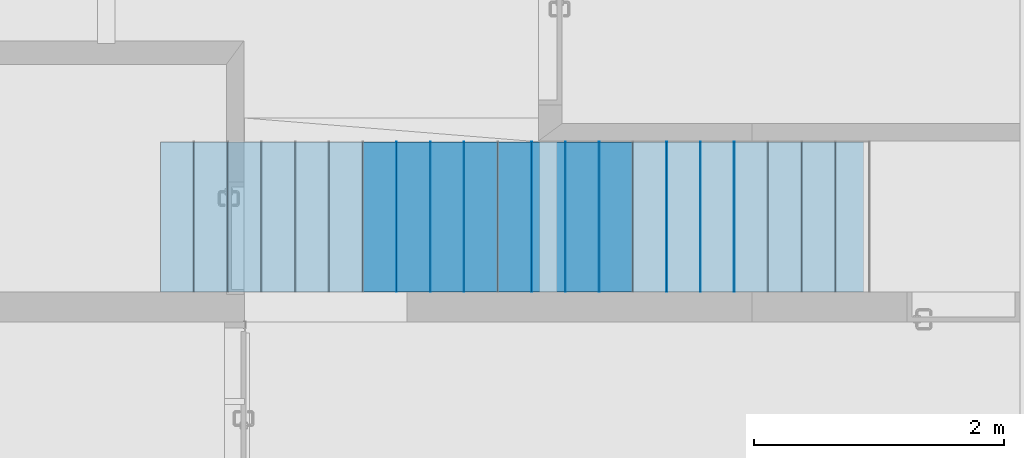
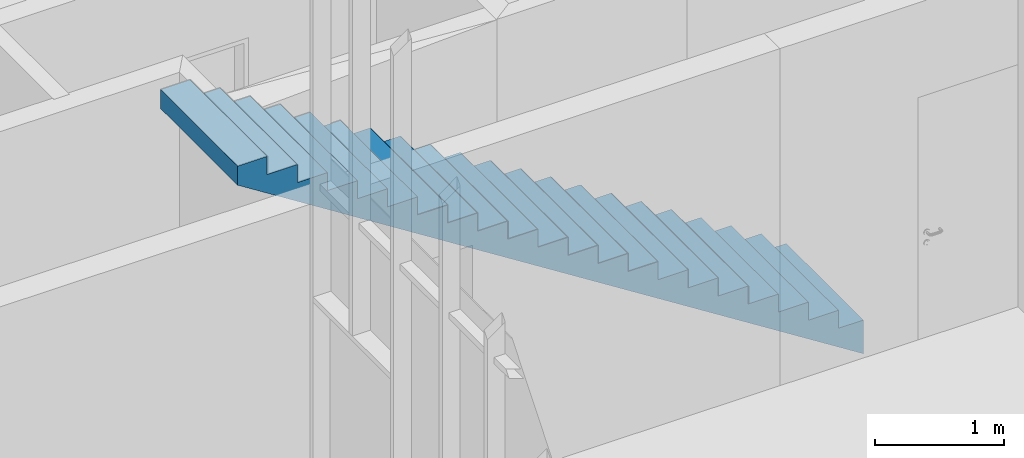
# One storey, part 28 of 62: 18 members, 1 element without a shape of its own.
"""IFC2X3 building model written with IfcOpenShell, lengths in millimetres."""

from ifc_helpers import new_model, entity, si_unit, converted_unit, derived_unit, money_unit, direction, frame, origin_with_axes, place, context, subcontext, project, spatial, faceted_brep, material, type_object, element, aggregate, save


model = new_model("IFC2X3")

# Units and contexts
model_context = context("Model", 3, precision=0.01, world=origin_with_axes(), true_north=direction((0.0, 1.0)))
body_context = subcontext(model_context, "Body", "Model", "MODEL_VIEW")
ifc_project = project(units=[si_unit("LENGTHUNIT", "METRE", prefix="MILLI"), si_unit("AREAUNIT", "SQUARE_METRE"), si_unit("VOLUMEUNIT", "CUBIC_METRE"), converted_unit("PLANEANGLEUNIT", "DEGREE", entity("IfcPlaneAngleMeasure", 0.0174532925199), si_unit("PLANEANGLEUNIT", "RADIAN"), dimensions=[0, 0, 0, 0, 0, 0, 0]), si_unit("SOLIDANGLEUNIT", "STERADIAN"), money_unit("EUR"), converted_unit("TIMEUNIT", "Year", entity("IfcTimeMeasure", 31556926.0), si_unit("TIMEUNIT", "SECOND"), dimensions=[0, 0, 1, 0, 0, 0, 0]), si_unit("MASSUNIT", "GRAM", prefix="KILO"), si_unit("THERMODYNAMICTEMPERATUREUNIT", "DEGREE_CELSIUS"), si_unit("LUMINOUSINTENSITYUNIT", "LUMEN"), si_unit("ENERGYUNIT", "JOULE", prefix="MEGA"), derived_unit("THERMALCONDUCTANCEUNIT", [(si_unit("POWERUNIT", "WATT"), 1), (si_unit("LENGTHUNIT", "METRE"), -1), (si_unit("THERMODYNAMICTEMPERATUREUNIT", "KELVIN"), -1)]), derived_unit("SPECIFICHEATCAPACITYUNIT", [(si_unit("ENERGYUNIT", "JOULE"), 1), (si_unit("MASSUNIT", "GRAM", prefix="KILO"), -1), (si_unit("THERMODYNAMICTEMPERATUREUNIT", "KELVIN"), -1)]), derived_unit("MASSDENSITYUNIT", [(si_unit("MASSUNIT", "GRAM", prefix="KILO"), 1), (si_unit("VOLUMEUNIT", "CUBIC_METRE"), -1)])], contexts=[model_context])

# Site, building, storey
site_placement = place(None, origin_with_axes())
site = spatial("IfcSite", under=ifc_project, at=site_placement, Name="KIRDE 14, ELVA", CompositionType="ELEMENT")
building_placement = place(site_placement, origin_with_axes())
building = spatial("IfcBuilding", under=site, at=building_placement, Name="PPA ja Päästeameti ühishoone", CompositionType="ELEMENT")
storey_placement = place(building_placement, origin_with_axes())
storey = spatial("IfcBuildingStorey", under=building, at=storey_placement, Name="Esimene korrus", CompositionType="ELEMENT", Elevation=0.0)

# Stair, members
stair_placement = place(storey_placement, frame((38844.704885, 14400.0005642, 0.0), z_axis=(0.0, 0.0, 1.0), x_axis=(0.845542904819, 0.533907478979, 0.0)))
stair = element("IfcStair", 1, at=stair_placement, inside=storey, Name="TREPP", ShapeType="NOTDEFINED")
ifc_material_1 = material(Name="KON-04_Betoon - Konstuktsioon")
member_type_1 = type_object("IfcMemberType", Name="IfcMember", PredefinedType="USERDEFINED")
member_1_placement = place(stair_placement, origin_with_axes())
member_1 = element("IfcMember", 2, at=member_1_placement, type_object=member_type_1, material=ifc_material_1, Name="TT KONSTRUKTSIOON - 003", ObjectType="Stair Structure", context=body_context, shape_type="Brep", body=[
    faceted_brep([(-873.213273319, -867.826929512, 166.428571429), (-682.966122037, -987.95611593, 166.428571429), (-42.2771483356, 26.695369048, 166.428571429), (-232.524298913, 146.82455658, 166.428571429), (-716.787835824, -966.59981296, -128.712062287), (-682.966122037, -987.95611593, -154.108887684), (-873.213273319, -867.826929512, 337.857142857), (-1101.5098575, -723.671910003, 337.857142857), (-1101.5098575, -723.671910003, 509.285714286), (-1329.80644201, -579.516891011, 509.285714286), (-1329.80644201, -579.516891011, 680.714285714), (-1558.1030264, -435.361871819, 680.714285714), (-1558.1030264, -435.361871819, 852.142857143), (-1786.39961073, -291.206852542, 852.142857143), (-1786.39961073, -291.206852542, 1023.57142857), (-2014.69619511, -147.051833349, 1023.57142857), (-2014.69619511, -147.051833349, 1195.0), (-2242.99277945, -2.89681407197, 1195.0), (-2242.99277945, -2.89681407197, 1366.42857143), (-2471.28936383, 141.258205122, 1366.42857143), (-2471.28936383, 141.258205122, 1537.85714286), (-2699.58594801, 285.413224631, 1537.85714286), (-2699.58594801, 285.413224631, 1709.28571429), (-2927.88253252, 429.568243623, 1709.28571429), (-2927.88253252, 429.568243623, 1880.71428571), (-3156.17911691, 573.723262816, 1880.71428571), (-3156.17911691, 573.723262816, 2052.14285714), (-3384.47570124, 717.878282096, 2052.14285714), (-3384.47570124, 717.878282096, 2223.57142857), (-3612.77228562, 862.033301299, 2223.57142857), (-3612.77228562, 862.033301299, 2395.0), (-3841.06886981, 1006.18832079, 2395.0), (-3841.06886981, 1006.18832079, 2566.42857143), (-4069.36545418, 1150.34334002, 2566.42857143), (-4069.36545418, 1150.34334002, 2737.85714286), (-4297.66203854, 1294.49835924, 2737.85714286), (-4297.66203854, 1294.49835924, 2909.28571429), (-4525.95862305, 1438.65337824, 2909.28571429), (-4525.95862305, 1438.65337824, 3080.71428571), (-4754.25520725, 1582.80839773, 3080.71428571), (-4754.25520725, 1582.80839773, 3252.14285714), (-4982.55179176, 1726.96341671, 3252.14285714), (-4982.55179176, 1726.96341671, 3423.57142857), (-5210.84837607, 1871.11843603, 3423.57142857), (-5210.84837607, 1871.11843603, 3595.0), (-5434.9172459, 2012.60391787, 3595.0), (-5434.91724862, 2012.60391356, 3414.14508057), (-5358.81838717, 1964.55224048, 3357.00222343), (-5282.71952572, 1916.5005674, 3299.85936628), (-5206.62066426, 1868.44889432, 3242.71650914), (-5130.52180009, 1820.39722556, 3185.573652), (-5054.42293864, 1772.34555248, 3128.43079486), (-4978.32408026, 1724.29387452, 3071.28793771), (-4902.22521881, 1676.24220145, 3014.14508057), (-4826.12635736, 1628.19052837, 2957.00222343), (-4750.0274959, 1580.13885529, 2899.85936628), (-4673.92863137, 1532.08718709, 2842.71650914), (-4597.82976992, 1484.03551401, 2785.573652), (-4521.73090847, 1435.98384093, 2728.43079486), (-4445.63204701, 1387.93216785, 2671.28793771), (-4369.53318556, 1339.88049478, 2614.14508057), (-4293.43432411, 1291.8288217, 2557.00222343), (-4217.33546265, 1243.77714862, 2499.85936628), (-4141.2366012, 1195.72547554, 2442.71650914), (-4065.13774298, 1147.67379734, 2385.573652), (-3989.03888153, 1099.62212426, 2328.43079486), (-3912.94002008, 1051.57045119, 2271.28793771), (-3836.84115863, 1003.51877811, 2214.14508057), (-3760.74229609, 955.46710674, 2157.00222343), (-3684.64343464, 907.415433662, 2099.85936628), (-3608.54457479, 859.36375805, 2042.71650914), (-3532.44571334, 811.312084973, 1985.573652), (-3456.34685188, 763.260411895, 1928.43079486), (-3380.24799043, 715.208738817, 1871.28793771), (-3304.14912757, 667.157067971, 1814.14508057), (-3228.05026611, 619.105394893, 1757.00222343), (-3151.95140466, 571.053721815, 1699.85936628), (-3075.85254086, 523.002052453, 1642.71650914), (-2999.75367941, 474.950379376, 1585.573652), (-2923.65482149, 426.898700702, 1528.43079486), (-2847.55596004, 378.847027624, 1471.28793771), (-2771.45709858, 330.795354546, 1414.14508057), (-2695.35823713, 282.743681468, 1357.00222343), (-2619.25937431, 234.692010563, 1299.85936628), (-2543.16051285, 186.640337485, 1242.71650914), (-2467.06165292, 138.588662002, 1185.573652), (-2390.96279147, 90.5369889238, 1128.43079486), (-2314.86393001, 42.4853158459, 1071.28793771), (-2238.76506856, -5.56635723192, 1014.14508057), (-2162.66620568, -53.6180280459, 957.002223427), (-2086.56734423, -101.669701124, 899.859366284), (-2010.46848428, -149.721376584, 842.716509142), (-1934.36962283, -197.773049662, 785.573651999), (-1858.27076137, -245.82472274, 728.430794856), (-1782.17189992, -293.876395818, 671.287937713), (-1706.07303703, -341.928066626, 614.14508057), (-1629.97417558, -389.979739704, 557.002223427), (-1553.87531413, -438.031412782, 499.859366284), (-1477.77645035, -486.083082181, 442.716509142), (-1401.6775889, -534.134755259, 385.573651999), (-1325.57873095, -582.186433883, 328.430794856), (-1249.4798695, -630.238106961, 271.287937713), (-1173.38100804, -678.289780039, 214.14508057), (-1097.28214659, -726.341453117, 157.002223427), (-1021.18328377, -774.393124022, 99.8593662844), (-945.084422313, -822.4447971, 42.7165091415), (-868.98556086, -870.496470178, -14.4263480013), (-792.886697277, -918.548139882, -71.5692051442), (-42.2771483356, 26.695369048, -154.108887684), (-76.0988614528, 48.0516730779, -128.712062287), (-152.197722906, 96.1033461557, -71.5692051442), (-228.296584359, 144.155019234, -14.4263480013), (-304.395441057, 192.206699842, 42.7165091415), (-380.494302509, 240.258372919, 99.8593662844), (-456.593168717, 288.310038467, 157.002223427), (-532.69203017, 336.361711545, 214.14508057), (-608.790891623, 384.413384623, 271.287937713), (-684.889753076, 432.465057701, 328.430794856), (-760.98860925, 480.516739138, 385.573651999), (-837.087470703, 528.568412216, 442.716509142), (-913.186334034, 576.62008232, 499.859366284), (-989.285195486, 624.671755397, 557.002223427), (-1065.38405694, 672.723428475, 614.14508057), (-1141.48292179, 720.775096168, 671.287937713), (-1217.58178325, 768.826769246, 728.430794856), (-1293.6806447, 816.878442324, 785.573651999), (-1369.77950615, 864.930115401, 842.716509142), (-1445.87836365, 912.981794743, 899.859366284), (-1521.9772251, 961.03346782, 957.002223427), (-1598.07609051, 1009.08513463, 1014.14508057), (-1674.17495196, 1057.13680771, 1071.28793771), (-1750.27381342, 1105.18848079, 1128.43079486), (-1826.37267487, 1153.24015387, 1185.573652), (-1902.47153182, 1201.29183408, 1242.71650914), (-1978.57039327, 1249.34350715, 1299.85936628), (-2054.66925923, 1297.3951731, 1357.00222343), (-2130.76812068, 1345.44684618, 1414.14508057), (-2206.86698213, 1393.49851926, 1471.28793771), (-2282.96584359, 1441.55019234, 1528.43079486), (-2359.06470001, 1489.60187337, 1585.573652), (-2435.16356147, 1537.65354645, 1642.71650914), (-2511.2624248, 1585.70521655, 1699.85936628), (-2587.36128625, 1633.75688963, 1757.00222343), (-2663.4601477, 1681.80856271, 1814.14508057), (-2739.5590123, 1729.8602308, 1871.28793771), (-2815.65787376, 1777.91190388, 1928.43079486), (-2891.75673521, 1825.96357696, 1985.573652), (-2967.85559666, 1874.01525004, 2042.71650914), (-3043.95445437, 1922.06692904, 2099.85936628), (-3120.05331582, 1970.11860212, 2157.00222343), (-3196.15217882, 2018.17027275, 2214.14508057), (-3272.25104028, 2066.22194583, 2271.28793771), (-3348.34990173, 2114.2736189, 2328.43079486), (-3424.44876372, 2162.32529113, 2385.573652), (-3500.54762517, 2210.37696421, 2442.71650914), (-3576.64648662, 2258.42863729, 2499.85936628), (-3652.74534974, 2306.48030774, 2557.00222343), (-3728.84421119, 2354.53198081, 2614.14508057), (-3804.94307264, 2402.58365389, 2671.28793771), (-3881.04193409, 2450.63532697, 2728.43079486), (-3957.14079555, 2498.68700005, 2785.573652), (-4033.239657, 2546.73867313, 2842.71650914), (-4109.33851845, 2594.7903462, 2899.85936628), (-4185.43737619, 2642.84202516, 2957.00222343), (-4261.53623765, 2690.89369824, 3014.14508057), (-4337.63509959, 2738.94537054, 3071.28793771), (-4413.73396105, 2786.99704361, 3128.43079486), (-4489.8328225, 2835.04871669, 3185.573652), (-4565.9316857, 2883.100387, 3242.71650914), (-4642.03054715, 2931.15206008, 3299.85936628), (-4718.1294086, 2979.20373316, 3357.00222343), (-4794.22827006, 3027.25540624, 3414.14508057), (-4794.22827153, 3027.2554039, 3595.0), (-4570.1594017, 2885.76992206, 3595.0), (-4570.1594017, 2885.76992206, 3423.57142857), (-4341.86281731, 2741.61490287, 3423.57142857), (-4341.86281731, 2741.61490287, 3252.14285714), (-4113.56623292, 2597.45988369, 3252.14285714), (-4113.56623292, 2597.45988369, 3080.71428571), (-3885.26964855, 2453.30486447, 3080.71428571), (-3885.26964855, 2453.30486447, 2909.28571429), (-3656.9730643, 2309.14984507, 2909.28571429), (-3656.9730643, 2309.14984507, 2737.85714286), (-3428.67647991, 2164.99482589, 2737.85714286), (-3428.67647991, 2164.99482589, 2566.42857143), (-3200.37989551, 2020.83980671, 2566.42857143), (-3200.37989551, 2020.83980671, 2395.0), (-2972.08331115, 1876.68478749, 2395.0), (-2972.08331115, 1876.68478749, 2223.57142857), (-2743.78672676, 1732.5297683, 2223.57142857), (-2743.78672676, 1732.5297683, 2052.14285714), (-2515.49014253, 1588.37474887, 2052.14285714), (-2515.49014253, 1588.37474887, 1880.71428571), (-2287.19355805, 1444.21972982, 1880.71428571), (-2287.19355805, 1444.21972982, 1709.28571429), (-2058.89697366, 1300.06471064, 1709.28571429), (-2058.89697366, 1300.06471064, 1537.85714286), (-1830.60038943, 1155.90969121, 1537.85714286), (-1830.60038943, 1155.90969121, 1366.42857143), (-1602.30380495, 1011.75467216, 1366.42857143), (-1602.30380495, 1011.75467216, 1195.0), (-1374.00722072, 867.599652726, 1195.0), (-1374.00722072, 867.599652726, 1023.57142857), (-1145.71063625, 723.444633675, 1023.57142857), (-1145.71063625, 723.444633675, 852.142857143), (-917.414052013, 579.289614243, 852.142857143), (-917.414052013, 579.289614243, 680.714285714), (-689.117467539, 435.134595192, 680.714285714), (-689.117467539, 435.134595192, 509.285714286), (-460.820883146, 290.979576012, 509.285714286), (-460.820883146, 290.979576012, 337.857142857), (-232.524298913, 146.82455658, 337.857142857)], [[[0, 1, 2, 3]], [[4, 5, 1, 0, 6, 7, 8, 9, 10, 11, 12, 13, 14, 15, 16, 17, 18, 19, 20, 21, 22, 23, 24, 25, 26, 27, 28, 29, 30, 31, 32, 33, 34, 35, 36, 37, 38, 39, 40, 41, 42, 43, 44, 45, 46, 47, 48, 49, 50, 51, 52, 53, 54, 55, 56, 57, 58, 59, 60, 61, 62, 63, 64, 65, 66, 67, 68, 69, 70, 71, 72, 73, 74, 75, 76, 77, 78, 79, 80, 81, 82, 83, 84, 85, 86, 87, 88, 89, 90, 91, 92, 93, 94, 95, 96, 97, 98, 99, 100, 101, 102, 103, 104, 105, 106, 107]], [[5, 108, 2, 1]], [[3, 2, 108, 109, 110, 111, 112, 113, 114, 115, 116, 117, 118, 119, 120, 121, 122, 123, 124, 125, 126, 127, 128, 129, 130, 131, 132, 133, 134, 135, 136, 137, 138, 139, 140, 141, 142, 143, 144, 145, 146, 147, 148, 149, 150, 151, 152, 153, 154, 155, 156, 157, 158, 159, 160, 161, 162, 163, 164, 165, 166, 167, 168, 169, 170, 171, 172, 173, 174, 175, 176, 177, 178, 179, 180, 181, 182, 183, 184, 185, 186, 187, 188, 189, 190, 191, 192, 193, 194, 195, 196, 197, 198, 199, 200, 201, 202, 203, 204, 205, 206, 207, 208, 209, 210, 211]], [[211, 6, 0, 3]], [[109, 108, 5, 4]], [[210, 7, 6, 211]], [[209, 8, 7, 210]], [[208, 9, 8, 209]], [[207, 10, 9, 208]], [[206, 11, 10, 207]], [[205, 12, 11, 206]], [[204, 13, 12, 205]], [[203, 14, 13, 204]], [[202, 15, 14, 203]], [[201, 16, 15, 202]], [[200, 17, 16, 201]], [[199, 18, 17, 200]], [[198, 19, 18, 199]], [[197, 20, 19, 198]], [[196, 21, 20, 197]], [[195, 22, 21, 196]], [[194, 23, 22, 195]], [[193, 24, 23, 194]], [[192, 25, 24, 193]], [[191, 26, 25, 192]], [[190, 27, 26, 191]], [[189, 28, 27, 190]], [[188, 29, 28, 189]], [[187, 30, 29, 188]], [[186, 31, 30, 187]], [[185, 32, 31, 186]], [[184, 33, 32, 185]], [[183, 34, 33, 184]], [[182, 35, 34, 183]], [[181, 36, 35, 182]], [[180, 37, 36, 181]], [[179, 38, 37, 180]], [[178, 39, 38, 179]], [[177, 40, 39, 178]], [[176, 41, 40, 177]], [[175, 42, 41, 176]], [[174, 43, 42, 175]], [[173, 44, 43, 174]], [[173, 172, 45, 44]], [[45, 172, 171, 46]], [[47, 46, 171, 170]], [[48, 47, 170, 169]], [[49, 48, 169, 168]], [[50, 49, 168, 167]], [[51, 50, 167, 166]], [[52, 51, 166, 165]], [[53, 52, 165, 164]], [[54, 53, 164, 163]], [[55, 54, 163, 162]], [[56, 55, 162, 161]], [[57, 56, 161, 160]], [[58, 57, 160, 159]], [[59, 58, 159, 158]], [[60, 59, 158, 157]], [[61, 60, 157, 156]], [[62, 61, 156, 155]], [[63, 62, 155, 154]], [[64, 63, 154, 153]], [[65, 64, 153, 152]], [[66, 65, 152, 151]], [[67, 66, 151, 150]], [[68, 67, 150, 149]], [[69, 68, 149, 148]], [[70, 69, 148, 147]], [[71, 70, 147, 146]], [[72, 71, 146, 145]], [[73, 72, 145, 144]], [[74, 73, 144, 143]], [[75, 74, 143, 142]], [[76, 75, 142, 141]], [[77, 76, 141, 140]], [[78, 77, 140, 139]], [[79, 78, 139, 138]], [[80, 79, 138, 137]], [[81, 80, 137, 136]], [[82, 81, 136, 135]], [[83, 82, 135, 134]], [[84, 83, 134, 133]], [[85, 84, 133, 132]], [[86, 85, 132, 131]], [[87, 86, 131, 130]], [[88, 87, 130, 129]], [[89, 88, 129, 128]], [[90, 89, 128, 127]], [[91, 90, 127, 126]], [[92, 91, 126, 125]], [[93, 92, 125, 124]], [[94, 93, 124, 123]], [[95, 94, 123, 122]], [[96, 95, 122, 121]], [[97, 96, 121, 120]], [[98, 97, 120, 119]], [[99, 98, 119, 118]], [[100, 99, 118, 117]], [[101, 100, 117, 116]], [[102, 101, 116, 115]], [[103, 102, 115, 114]], [[104, 103, 114, 113]], [[105, 104, 113, 112]], [[106, 105, 112, 111]], [[107, 106, 111, 110]], [[4, 107, 110, 109]]]),
])
ifc_material_2 = material(Name="SV-02_Puit - Põrand")
member_type_2 = type_object("IfcMemberType", Name="IfcMember", PredefinedType="USERDEFINED")
member_2_placement = place(stair_placement, frame((-1233.53082462, 69.2943339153, 852.142857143), z_axis=(0.0, 0.0, 1.0), x_axis=(0.533907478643, 0.845542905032, 0.0)))
member_2 = element("IfcMember", 3, at=member_2_placement, type_object=member_type_2, material=ifc_material_2, Name="TV TÕUS - 025", ObjectType="Stair Riser", context=body_context, shape_type="Brep", body=[
    faceted_brep([(600.0, 0.0, 0.0), (600.0, 5.0, 0.0), (-600.0, 5.0, 0.0), (-600.0, 0.0, 0.0), (600.0, 0.0, -166.428571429), (600.0, 5.0, -166.428571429), (-600.0, 5.0, -166.428571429), (-600.0, 0.0, -166.428571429)], [[[0, 1, 2, 3]], [[0, 4, 5, 1]], [[1, 5, 6, 2]], [[3, 2, 6, 7]], [[4, 0, 3, 7]], [[5, 4, 7, 6]]]),
])
member_3_placement = place(stair_placement, frame((-1461.82740898, 213.449353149, 1023.57142857), z_axis=(0.0, 0.0, 1.0), x_axis=(0.533907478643, 0.845542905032, 0.0)))
member_3 = element("IfcMember", 4, at=member_3_placement, type_object=member_type_2, material=ifc_material_2, Name="TV TÕUS - 026", ObjectType="Stair Riser", context=body_context, shape_type="Brep", body=[
    faceted_brep([(600.0, 0.0, 0.0), (600.0, 5.0, 0.0), (-600.0, 5.0, 0.0), (-600.0, 0.0, 0.0), (600.0, 0.0, -166.428571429), (600.0, 5.0, -166.428571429), (-600.0, 5.0, -166.428571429), (-600.0, 0.0, -166.428571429)], [[[0, 1, 2, 3]], [[0, 4, 5, 1]], [[1, 5, 6, 2]], [[3, 2, 6, 7]], [[4, 0, 3, 7]], [[5, 4, 7, 6]]]),
])
member_4_placement = place(stair_placement, frame((-1690.12399334, 357.604372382, 1195.0), z_axis=(0.0, 0.0, 1.0), x_axis=(0.533907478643, 0.845542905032, 0.0)))
member_4 = element("IfcMember", 5, at=member_4_placement, type_object=member_type_2, material=ifc_material_2, Name="TV TÕUS - 027", ObjectType="Stair Riser", context=body_context, shape_type="Brep", body=[
    faceted_brep([(600.0, 0.0, 0.0), (600.0, 5.0, 0.0), (-600.0, 5.0, 0.0), (-600.0, 0.0, 0.0), (600.0, 0.0, -166.428571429), (600.0, 5.0, -166.428571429), (-600.0, 5.0, -166.428571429), (-600.0, 0.0, -166.428571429)], [[[0, 1, 2, 3]], [[0, 4, 5, 1]], [[1, 5, 6, 2]], [[3, 2, 6, 7]], [[4, 0, 3, 7]], [[5, 4, 7, 6]]]),
])
member_5_placement = place(stair_placement, frame((-2146.71716205, 645.91441085, 1537.85714286), z_axis=(0.0, 0.0, 1.0), x_axis=(0.533907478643, 0.845542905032, 0.0)))
member_5 = element("IfcMember", 6, at=member_5_placement, type_object=member_type_2, material=ifc_material_2, Name="TV TÕUS - 029", ObjectType="Stair Riser", context=body_context, shape_type="Brep", body=[
    faceted_brep([(600.0, 0.0, 0.0), (600.0, 5.0, 0.0), (-600.0, 5.0, 0.0), (-600.0, 0.0, 0.0), (600.0, 0.0, -166.428571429), (600.0, 5.0, -166.428571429), (-600.0, 5.0, -166.428571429), (-600.0, 0.0, -166.428571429)], [[[0, 1, 2, 3]], [[0, 4, 5, 1]], [[1, 5, 6, 2]], [[3, 2, 6, 7]], [[4, 0, 3, 7]], [[5, 4, 7, 6]]]),
])
member_6_placement = place(stair_placement, frame((-2375.01374641, 790.069430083, 1709.28571429), z_axis=(0.0, 0.0, 1.0), x_axis=(0.533907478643, 0.845542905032, 0.0)))
member_6 = element("IfcMember", 7, at=member_6_placement, type_object=member_type_2, material=ifc_material_2, Name="TV TÕUS - 030", ObjectType="Stair Riser", context=body_context, shape_type="Brep", body=[
    faceted_brep([(600.0, 0.0, 0.0), (600.0, 5.0, 0.0), (-600.0, 5.0, 0.0), (-600.0, 0.0, 0.0), (600.0, 0.0, -166.428571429), (600.0, 5.0, -166.428571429), (-600.0, 5.0, -166.428571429), (-600.0, 0.0, -166.428571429)], [[[0, 1, 2, 3]], [[0, 4, 5, 1]], [[1, 5, 6, 2]], [[3, 2, 6, 7]], [[4, 0, 3, 7]], [[5, 4, 7, 6]]]),
])
member_7_placement = place(stair_placement, frame((-2603.31033077, 934.224449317, 1880.71428571), z_axis=(0.0, 0.0, 1.0), x_axis=(0.533907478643, 0.845542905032, 0.0)))
member_7 = element("IfcMember", 8, at=member_7_placement, type_object=member_type_2, material=ifc_material_2, Name="TV TÕUS - 031", ObjectType="Stair Riser", context=body_context, shape_type="Brep", body=[
    faceted_brep([(600.0, 0.0, 0.0), (600.0, 5.0, 0.0), (-600.0, 5.0, 0.0), (-600.0, 0.0, 0.0), (600.0, 0.0, -166.428571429), (600.0, 5.0, -166.428571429), (-600.0, 5.0, -166.428571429), (-600.0, 0.0, -166.428571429)], [[[0, 1, 2, 3]], [[0, 4, 5, 1]], [[1, 5, 6, 2]], [[3, 2, 6, 7]], [[4, 0, 3, 7]], [[5, 4, 7, 6]]]),
])
member_8_placement = place(stair_placement, frame((-3059.90349949, 1222.53448778, 2223.57142857), z_axis=(0.0, 0.0, 1.0), x_axis=(0.533907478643, 0.845542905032, 0.0)))
member_8 = element("IfcMember", 9, at=member_8_placement, type_object=member_type_2, material=ifc_material_2, Name="TV TÕUS - 033", ObjectType="Stair Riser", context=body_context, shape_type="Brep", body=[
    faceted_brep([(600.0, 0.0, 0.0), (600.0, 5.0, 0.0), (-600.0, 5.0, 0.0), (-600.0, 0.0, 0.0), (600.0, 0.0, -166.428571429), (600.0, 5.0, -166.428571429), (-600.0, 5.0, -166.428571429), (-600.0, 0.0, -166.428571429)], [[[0, 1, 2, 3]], [[0, 4, 5, 1]], [[1, 5, 6, 2]], [[3, 2, 6, 7]], [[4, 0, 3, 7]], [[5, 4, 7, 6]]]),
])
member_9_placement = place(stair_placement, frame((-3288.20008385, 1366.68950702, 2395.0), z_axis=(0.0, 0.0, 1.0), x_axis=(0.533907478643, 0.845542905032, 0.0)))
member_9 = element("IfcMember", 10, at=member_9_placement, type_object=member_type_2, material=ifc_material_2, Name="TV TÕUS - 034", ObjectType="Stair Riser", context=body_context, shape_type="Brep", body=[
    faceted_brep([(600.0, 0.0, 0.0), (600.0, 5.0, 0.0), (-600.0, 5.0, 0.0), (-600.0, 0.0, 0.0), (600.0, 0.0, -166.428571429), (600.0, 5.0, -166.428571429), (-600.0, 5.0, -166.428571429), (-600.0, 0.0, -166.428571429)], [[[0, 1, 2, 3]], [[0, 4, 5, 1]], [[1, 5, 6, 2]], [[3, 2, 6, 7]], [[4, 0, 3, 7]], [[5, 4, 7, 6]]]),
])
member_10_placement = place(stair_placement, frame((-3516.49666821, 1510.84452625, 2566.42857143), z_axis=(0.0, 0.0, 1.0), x_axis=(0.533907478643, 0.845542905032, 0.0)))
member_10 = element("IfcMember", 11, at=member_10_placement, type_object=member_type_2, material=ifc_material_2, Name="TV TÕUS - 035", ObjectType="Stair Riser", context=body_context, shape_type="Brep", body=[
    faceted_brep([(600.0, 0.0, 0.0), (600.0, 5.0, 0.0), (-600.0, 5.0, 0.0), (-600.0, 0.0, 0.0), (600.0, 0.0, -166.428571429), (600.0, 5.0, -166.428571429), (-600.0, 5.0, -166.428571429), (-600.0, 0.0, -166.428571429)], [[[0, 1, 2, 3]], [[0, 4, 5, 1]], [[1, 5, 6, 2]], [[3, 2, 6, 7]], [[4, 0, 3, 7]], [[5, 4, 7, 6]]]),
])
member_type_3 = type_object("IfcMemberType", Name="IfcMember", PredefinedType="USERDEFINED")
member_11_placement = place(stair_placement, frame((-1918.4205777, 501.759391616, 1371.42857143), z_axis=(0.0, 0.0, 1.0), x_axis=(0.533907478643, 0.845542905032, 0.0)))
member_11 = element("IfcMember", 12, at=member_11_placement, type_object=member_type_3, material=ifc_material_2, Name="TV ASTE - 028", ObjectType="Stair Tread", context=body_context, shape_type="Brep", body=[
    faceted_brep([(-600.0, 274.999996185, 0.0), (600.0, 274.999995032, 0.0), (600.0, 274.999995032, -5.0), (-600.0, 274.999996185, -5.0), (-600.0, 12.5, 0.0), (600.0, 12.5, 0.0), (600.0, 2.92444446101, -4.46515487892), (600.0, 2.54994187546, -5.0), (600.0, 10.3293977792, -0.189903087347), (600.0, 8.22474820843, -0.753842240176), (600.0, 6.25, -1.67468245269), (600.0, 4.46515487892, -2.92444446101), (-600.0, 2.54994187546, -5.0), (-600.0, 2.92444446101, -4.46515487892), (-600.0, 4.46515487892, -2.92444446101), (-600.0, 6.25, -1.67468245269), (-600.0, 8.22474820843, -0.753842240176), (-600.0, 10.3293977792, -0.189903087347)], [[[0, 1, 2, 3]], [[1, 0, 4, 5]], [[6, 7, 2, 1, 5, 8, 9, 10, 11]], [[7, 12, 3, 2]], [[4, 0, 3, 12, 13, 14, 15, 16, 17]], [[8, 5, 4, 17]], [[7, 6, 13, 12]], [[9, 8, 17, 16]], [[10, 9, 16, 15]], [[11, 10, 15, 14]], [[6, 11, 14, 13]]]),
])
member_12_placement = place(stair_placement, frame((-2146.71716205, 645.91441085, 1542.85714286), z_axis=(0.0, 0.0, 1.0), x_axis=(0.533907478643, 0.845542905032, 0.0)))
member_12 = element("IfcMember", 13, at=member_12_placement, type_object=member_type_3, material=ifc_material_2, Name="TV ASTE - 029", ObjectType="Stair Tread", context=body_context, shape_type="Brep", body=[
    faceted_brep([(-600.0, 274.999996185, 0.0), (600.0, 274.999995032, 0.0), (600.0, 274.999995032, -5.0), (-600.0, 274.999996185, -5.0), (-600.0, 12.5, 0.0), (600.0, 12.5, 0.0), (600.0, 2.92444446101, -4.46515487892), (600.0, 2.54994187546, -5.0), (600.0, 10.3293977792, -0.189903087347), (600.0, 8.22474820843, -0.753842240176), (600.0, 6.25, -1.67468245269), (600.0, 4.46515487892, -2.92444446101), (-600.0, 2.54994187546, -5.0), (-600.0, 2.92444446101, -4.46515487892), (-600.0, 4.46515487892, -2.92444446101), (-600.0, 6.25, -1.67468245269), (-600.0, 8.22474820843, -0.753842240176), (-600.0, 10.3293977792, -0.189903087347)], [[[0, 1, 2, 3]], [[1, 0, 4, 5]], [[6, 7, 2, 1, 5, 8, 9, 10, 11]], [[7, 12, 3, 2]], [[4, 0, 3, 12, 13, 14, 15, 16, 17]], [[8, 5, 4, 17]], [[7, 6, 13, 12]], [[9, 8, 17, 16]], [[10, 9, 16, 15]], [[11, 10, 15, 14]], [[6, 11, 14, 13]]]),
])
member_13_placement = place(stair_placement, frame((-2375.01374641, 790.069430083, 1714.28571429), z_axis=(0.0, 0.0, 1.0), x_axis=(0.533907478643, 0.845542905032, 0.0)))
member_13 = element("IfcMember", 14, at=member_13_placement, type_object=member_type_3, material=ifc_material_2, Name="TV ASTE - 030", ObjectType="Stair Tread", context=body_context, shape_type="Brep", body=[
    faceted_brep([(-600.0, 274.999996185, 0.0), (600.0, 274.999995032, 0.0), (600.0, 274.999995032, -5.0), (-600.0, 274.999996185, -5.0), (-600.0, 12.5, 0.0), (600.0, 12.5, 0.0), (600.0, 2.92444446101, -4.46515487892), (600.0, 2.54994187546, -5.0), (600.0, 10.3293977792, -0.189903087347), (600.0, 8.22474820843, -0.753842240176), (600.0, 6.25, -1.67468245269), (600.0, 4.46515487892, -2.92444446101), (-600.0, 2.54994187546, -5.0), (-600.0, 2.92444446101, -4.46515487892), (-600.0, 4.46515487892, -2.92444446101), (-600.0, 6.25, -1.67468245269), (-600.0, 8.22474820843, -0.753842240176), (-600.0, 10.3293977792, -0.189903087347)], [[[0, 1, 2, 3]], [[1, 0, 4, 5]], [[6, 7, 2, 1, 5, 8, 9, 10, 11]], [[7, 12, 3, 2]], [[4, 0, 3, 12, 13, 14, 15, 16, 17]], [[8, 5, 4, 17]], [[7, 6, 13, 12]], [[9, 8, 17, 16]], [[10, 9, 16, 15]], [[11, 10, 15, 14]], [[6, 11, 14, 13]]]),
])
member_14_placement = place(stair_placement, frame((-2603.31033077, 934.224449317, 1885.71428571), z_axis=(0.0, 0.0, 1.0), x_axis=(0.533907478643, 0.845542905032, 0.0)))
member_14 = element("IfcMember", 15, at=member_14_placement, type_object=member_type_3, material=ifc_material_2, Name="TV ASTE - 031", ObjectType="Stair Tread", context=body_context, shape_type="Brep", body=[
    faceted_brep([(-600.0, 274.999996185, 0.0), (600.0, 274.999995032, 0.0), (600.0, 274.999995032, -5.0), (-600.0, 274.999996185, -5.0), (-600.0, 12.5, 0.0), (600.0, 12.5, 0.0), (600.0, 2.92444446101, -4.46515487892), (600.0, 2.54994187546, -5.0), (600.0, 10.3293977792, -0.189903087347), (600.0, 8.22474820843, -0.753842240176), (600.0, 6.25, -1.67468245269), (600.0, 4.46515487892, -2.92444446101), (-600.0, 2.54994187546, -5.0), (-600.0, 2.92444446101, -4.46515487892), (-600.0, 4.46515487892, -2.92444446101), (-600.0, 6.25, -1.67468245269), (-600.0, 8.22474820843, -0.753842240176), (-600.0, 10.3293977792, -0.189903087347)], [[[0, 1, 2, 3]], [[1, 0, 4, 5]], [[6, 7, 2, 1, 5, 8, 9, 10, 11]], [[7, 12, 3, 2]], [[4, 0, 3, 12, 13, 14, 15, 16, 17]], [[8, 5, 4, 17]], [[7, 6, 13, 12]], [[9, 8, 17, 16]], [[10, 9, 16, 15]], [[11, 10, 15, 14]], [[6, 11, 14, 13]]]),
])
member_15_placement = place(stair_placement, frame((-2831.60691513, 1078.37946855, 2057.14285714), z_axis=(0.0, 0.0, 1.0), x_axis=(0.533907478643, 0.845542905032, 0.0)))
member_15 = element("IfcMember", 16, at=member_15_placement, type_object=member_type_3, material=ifc_material_2, Name="TV ASTE - 032", ObjectType="Stair Tread", context=body_context, shape_type="Brep", body=[
    faceted_brep([(-600.0, 274.999996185, 0.0), (600.0, 274.999995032, 0.0), (600.0, 274.999995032, -5.0), (-600.0, 274.999996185, -5.0), (-600.0, 12.5, 0.0), (600.0, 12.5, 0.0), (600.0, 2.92444446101, -4.46515487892), (600.0, 2.54994187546, -5.0), (600.0, 10.3293977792, -0.189903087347), (600.0, 8.22474820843, -0.753842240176), (600.0, 6.25, -1.67468245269), (600.0, 4.46515487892, -2.92444446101), (-600.0, 2.54994187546, -5.0), (-600.0, 2.92444446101, -4.46515487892), (-600.0, 4.46515487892, -2.92444446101), (-600.0, 6.25, -1.67468245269), (-600.0, 8.22474820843, -0.753842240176), (-600.0, 10.3293977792, -0.189903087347)], [[[0, 1, 2, 3]], [[1, 0, 4, 5]], [[6, 7, 2, 1, 5, 8, 9, 10, 11]], [[7, 12, 3, 2]], [[4, 0, 3, 12, 13, 14, 15, 16, 17]], [[8, 5, 4, 17]], [[7, 6, 13, 12]], [[9, 8, 17, 16]], [[10, 9, 16, 15]], [[11, 10, 15, 14]], [[6, 11, 14, 13]]]),
])
member_16_placement = place(stair_placement, frame((-3059.90349949, 1222.53448778, 2228.57142857), z_axis=(0.0, 0.0, 1.0), x_axis=(0.533907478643, 0.845542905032, 0.0)))
member_16 = element("IfcMember", 17, at=member_16_placement, type_object=member_type_3, material=ifc_material_2, Name="TV ASTE - 033", ObjectType="Stair Tread", context=body_context, shape_type="Brep", body=[
    faceted_brep([(-600.0, 274.999996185, 0.0), (600.0, 274.999995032, 0.0), (600.0, 274.999995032, -5.0), (-600.0, 274.999996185, -5.0), (-600.0, 12.5, 0.0), (600.0, 12.5, 0.0), (600.0, 2.92444446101, -4.46515487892), (600.0, 2.54994187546, -5.0), (600.0, 10.3293977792, -0.189903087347), (600.0, 8.22474820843, -0.753842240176), (600.0, 6.25, -1.67468245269), (600.0, 4.46515487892, -2.92444446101), (-600.0, 2.54994187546, -5.0), (-600.0, 2.92444446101, -4.46515487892), (-600.0, 4.46515487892, -2.92444446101), (-600.0, 6.25, -1.67468245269), (-600.0, 8.22474820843, -0.753842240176), (-600.0, 10.3293977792, -0.189903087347)], [[[0, 1, 2, 3]], [[1, 0, 4, 5]], [[6, 7, 2, 1, 5, 8, 9, 10, 11]], [[7, 12, 3, 2]], [[4, 0, 3, 12, 13, 14, 15, 16, 17]], [[8, 5, 4, 17]], [[7, 6, 13, 12]], [[9, 8, 17, 16]], [[10, 9, 16, 15]], [[11, 10, 15, 14]], [[6, 11, 14, 13]]]),
])
member_17_placement = place(stair_placement, frame((-3288.20008385, 1366.68950702, 2400.0), z_axis=(0.0, 0.0, 1.0), x_axis=(0.533907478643, 0.845542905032, 0.0)))
member_17 = element("IfcMember", 18, at=member_17_placement, type_object=member_type_3, material=ifc_material_2, Name="TV ASTE - 034", ObjectType="Stair Tread", context=body_context, shape_type="Brep", body=[
    faceted_brep([(-600.0, 274.999996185, 0.0), (600.0, 274.999995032, 0.0), (600.0, 274.999995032, -5.0), (-600.0, 274.999996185, -5.0), (-600.0, 12.5, 0.0), (600.0, 12.5, 0.0), (600.0, 2.92444446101, -4.46515487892), (600.0, 2.54994187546, -5.0), (600.0, 10.3293977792, -0.189903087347), (600.0, 8.22474820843, -0.753842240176), (600.0, 6.25, -1.67468245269), (600.0, 4.46515487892, -2.92444446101), (-600.0, 2.54994187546, -5.0), (-600.0, 2.92444446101, -4.46515487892), (-600.0, 4.46515487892, -2.92444446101), (-600.0, 6.25, -1.67468245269), (-600.0, 8.22474820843, -0.753842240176), (-600.0, 10.3293977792, -0.189903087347)], [[[0, 1, 2, 3]], [[1, 0, 4, 5]], [[6, 7, 2, 1, 5, 8, 9, 10, 11]], [[7, 12, 3, 2]], [[4, 0, 3, 12, 13, 14, 15, 16, 17]], [[8, 5, 4, 17]], [[7, 6, 13, 12]], [[9, 8, 17, 16]], [[10, 9, 16, 15]], [[11, 10, 15, 14]], [[6, 11, 14, 13]]]),
])
member_18_placement = place(stair_placement, frame((-3516.49666821, 1510.84452625, 2571.42857143), z_axis=(0.0, 0.0, 1.0), x_axis=(0.533907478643, 0.845542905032, 0.0)))
member_18 = element("IfcMember", 19, at=member_18_placement, type_object=member_type_3, material=ifc_material_2, Name="TV ASTE - 035", ObjectType="Stair Tread", context=body_context, shape_type="Brep", body=[
    faceted_brep([(-600.0, 274.999996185, 0.0), (600.0, 274.999995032, 0.0), (600.0, 274.999995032, -5.0), (-600.0, 274.999996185, -5.0), (-600.0, 12.5, 0.0), (600.0, 12.5, 0.0), (600.0, 2.92444446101, -4.46515487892), (600.0, 2.54994187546, -5.0), (600.0, 10.3293977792, -0.189903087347), (600.0, 8.22474820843, -0.753842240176), (600.0, 6.25, -1.67468245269), (600.0, 4.46515487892, -2.92444446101), (-600.0, 2.54994187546, -5.0), (-600.0, 2.92444446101, -4.46515487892), (-600.0, 4.46515487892, -2.92444446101), (-600.0, 6.25, -1.67468245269), (-600.0, 8.22474820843, -0.753842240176), (-600.0, 10.3293977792, -0.189903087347)], [[[0, 1, 2, 3]], [[1, 0, 4, 5]], [[6, 7, 2, 1, 5, 8, 9, 10, 11]], [[7, 12, 3, 2]], [[4, 0, 3, 12, 13, 14, 15, 16, 17]], [[8, 5, 4, 17]], [[7, 6, 13, 12]], [[9, 8, 17, 16]], [[10, 9, 16, 15]], [[11, 10, 15, 14]], [[6, 11, 14, 13]]]),
])
aggregate(stair, [member_1, member_2, member_3, member_4, member_5, member_6, member_7, member_8, member_9, member_10, member_11, member_12, member_13, member_14, member_15, member_16, member_17, member_18])

save(model, "model.ifc")
